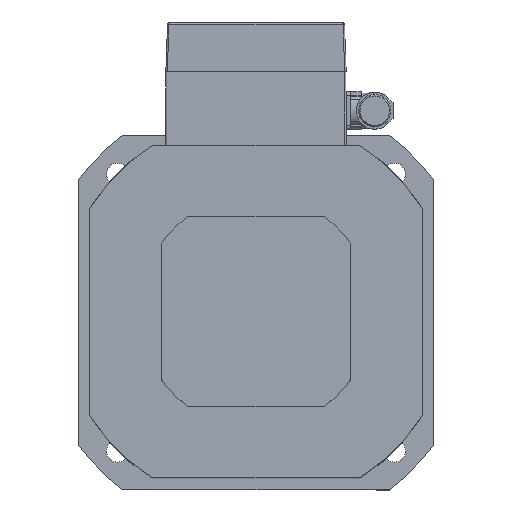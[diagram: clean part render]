
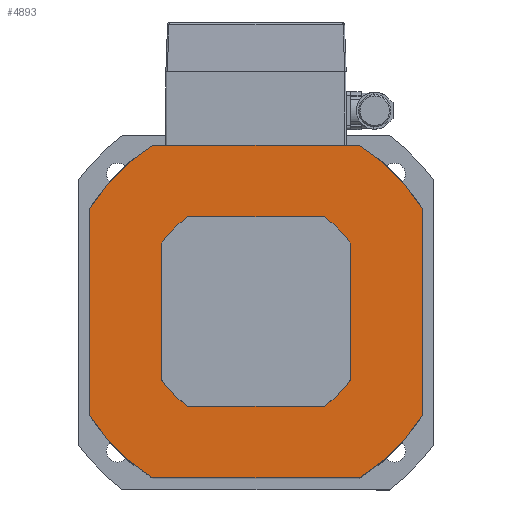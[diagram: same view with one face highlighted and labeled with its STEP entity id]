
A CAD part, top view. The second image highlights one B-rep face of the part: STEP entity #4893.
In plain terms, the highlighted planar face has unit normal (0, 0, 1).
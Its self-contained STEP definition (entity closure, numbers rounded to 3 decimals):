
#977=PLANE('',#5165);
#1098=VECTOR('',#5679,1.);
#1102=VECTOR('',#5690,1.);
#1106=VECTOR('',#5701,1.);
#1108=VECTOR('',#5704,1.);
#1399=LINE('',#6886,#1098);
#1403=LINE('',#6898,#1102);
#1407=LINE('',#6910,#1106);
#1409=LINE('',#6914,#1108);
#1698=VERTEX_POINT('',#6877);
#1699=VERTEX_POINT('',#6879);
#1701=VERTEX_POINT('',#6885);
#1703=VERTEX_POINT('',#6891);
#1705=VERTEX_POINT('',#6897);
#1707=VERTEX_POINT('',#6903);
#1709=VERTEX_POINT('',#6909);
#1711=VERTEX_POINT('',#6915);
#2128=CIRCLE('',#5150,132.5);
#2130=CIRCLE('',#5154,132.5);
#2132=CIRCLE('',#5158,132.5);
#2134=CIRCLE('',#5164,132.5);
#2339=EDGE_CURVE('',#1699,#1698,#2128,.T.);
#2343=EDGE_CURVE('',#1698,#1701,#1399,.T.);
#2346=EDGE_CURVE('',#1701,#1703,#2130,.T.);
#2349=EDGE_CURVE('',#1703,#1705,#1403,.T.);
#2352=EDGE_CURVE('',#1705,#1707,#2132,.T.);
#2355=EDGE_CURVE('',#1707,#1709,#1407,.T.);
#2357=EDGE_CURVE('',#1711,#1699,#1409,.T.);
#2360=EDGE_CURVE('',#1709,#1711,#2134,.T.);
#3000=ORIENTED_EDGE('',*,*,#2355,.T.);
#3001=ORIENTED_EDGE('',*,*,#2360,.T.);
#3002=ORIENTED_EDGE('',*,*,#2357,.T.);
#3003=ORIENTED_EDGE('',*,*,#2339,.T.);
#3004=ORIENTED_EDGE('',*,*,#2343,.T.);
#3005=ORIENTED_EDGE('',*,*,#2346,.T.);
#3006=ORIENTED_EDGE('',*,*,#2349,.T.);
#3007=ORIENTED_EDGE('',*,*,#2352,.T.);
#4215=EDGE_LOOP('',(#3000,#3001,#3002,#3003,#3004,#3005,#3006,#3007));
#4553=FACE_BOUND('',#4215,.T.);
#4893=ADVANCED_FACE('',(#4553),#977,.T.);
#5150=AXIS2_PLACEMENT_3D('',#6878,#5673,#5674);
#5154=AXIS2_PLACEMENT_3D('',#6892,#5685,#5686);
#5158=AXIS2_PLACEMENT_3D('',#6904,#5696,#5697);
#5164=AXIS2_PLACEMENT_3D('',#6920,#5711,#5712);
#5165=AXIS2_PLACEMENT_3D('',#6921,#5713,$);
#5673=DIRECTION('',(0.,0.,1.));
#5674=DIRECTION('',(132.5,0.,0.));
#5679=DIRECTION('',(1.,0.,0.));
#5685=DIRECTION('',(0.,0.,1.));
#5686=DIRECTION('',(132.5,0.,0.));
#5690=DIRECTION('',(0.,1.,0.));
#5696=DIRECTION('',(0.,0.,1.));
#5697=DIRECTION('',(132.5,0.,0.));
#5701=DIRECTION('',(-1.,0.,0.));
#5704=DIRECTION('',(0.,-1.,0.));
#5711=DIRECTION('',(0.,0.,1.));
#5712=DIRECTION('',(132.5,0.,0.));
#5713=DIRECTION('',(0.,0.,1.));
#6877=CARTESIAN_POINT('',(-70.,-112.5,0.));
#6878=CARTESIAN_POINT('',(0.,0.,0.));
#6879=CARTESIAN_POINT('',(-112.5,-70.,0.));
#6885=CARTESIAN_POINT('',(70.,-112.5,0.));
#6886=CARTESIAN_POINT('',(-70.,-112.5,0.));
#6891=CARTESIAN_POINT('',(112.5,-70.,0.));
#6892=CARTESIAN_POINT('',(0.,0.,0.));
#6897=CARTESIAN_POINT('',(112.5,70.,0.));
#6898=CARTESIAN_POINT('',(112.5,-70.,0.));
#6903=CARTESIAN_POINT('',(70.,112.5,0.));
#6904=CARTESIAN_POINT('',(0.,0.,0.));
#6909=CARTESIAN_POINT('',(-70.,112.5,0.));
#6910=CARTESIAN_POINT('',(70.,112.5,0.));
#6914=CARTESIAN_POINT('',(-112.5,70.,0.));
#6915=CARTESIAN_POINT('',(-112.5,70.,0.));
#6920=CARTESIAN_POINT('',(0.,0.,0.));
#6921=CARTESIAN_POINT('',(0.,0.,0.));
